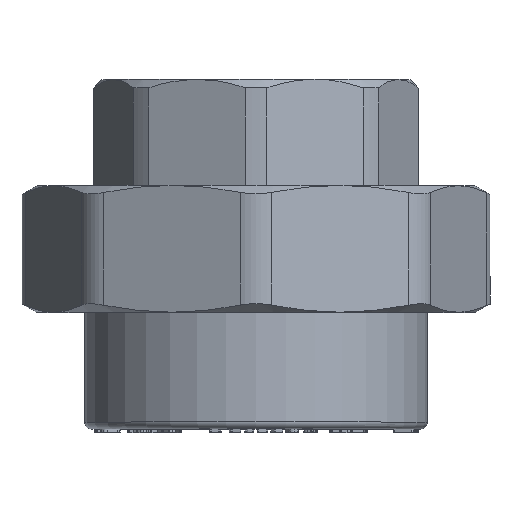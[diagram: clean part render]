
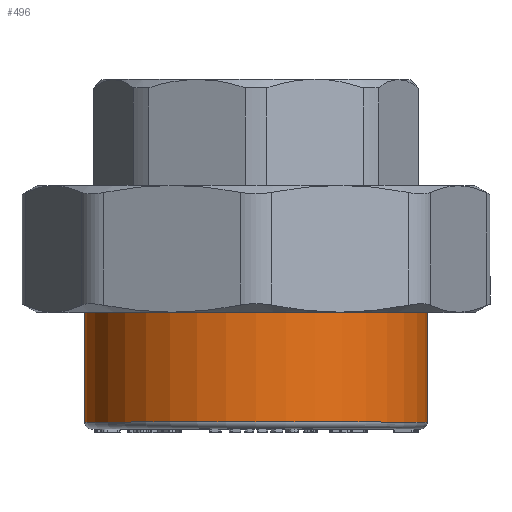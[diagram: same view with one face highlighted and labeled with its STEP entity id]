
A CAD part, top view. The second image highlights one B-rep face of the part: STEP entity #496.
In plain terms, the highlighted cylindrical face has radius 25 mm (diameter 50 mm), a full revolution.
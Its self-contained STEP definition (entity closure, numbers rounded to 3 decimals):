
#496=ADVANCED_FACE('',(#3698,#3700),#3702,.T.);
#3698=FACE_OUTER_BOUND('',#3699,.T.);
#3699=EDGE_LOOP('',(#8437));
#3700=FACE_OUTER_BOUND('',#3701,.T.);
#3701=EDGE_LOOP('',(#8438));
#3702=CYLINDRICAL_SURFACE('',#3703,25.);
#3703=AXIS2_PLACEMENT_3D('',#3704,#3705,#3706);
#3704=CARTESIAN_POINT('',(0.,0.,0.));
#3705=DIRECTION('',(0.,1.,0.));
#3706=DIRECTION('',(-1.,0.,0.));
#8437=ORIENTED_EDGE('',*,*,#11739,.F.);
#8438=ORIENTED_EDGE('',*,*,#10889,.T.);
#10889=EDGE_CURVE('',#13298,#13298,#13299,.T.);
#11739=EDGE_CURVE('',#14575,#14575,#14576,.T.);
#13298=VERTEX_POINT('',#17865);
#13299=CIRCLE('',#17866,25.);
#14575=VERTEX_POINT('',#20845);
#14576=CIRCLE('',#20846,25.);
#17865=CARTESIAN_POINT('',(-25.,1.,0.));
#17866=AXIS2_PLACEMENT_3D('',#17867,#17868,#17869);
#17867=CARTESIAN_POINT('',(0.,1.,0.));
#17868=DIRECTION('',(0.,1.,0.));
#17869=DIRECTION('',(-1.,0.,0.));
#20845=CARTESIAN_POINT('',(-25.,21.,0.));
#20846=AXIS2_PLACEMENT_3D('',#20847,#20848,#20849);
#20847=CARTESIAN_POINT('',(0.,21.,0.));
#20848=DIRECTION('',(0.,1.,0.));
#20849=DIRECTION('',(-1.,0.,0.));
